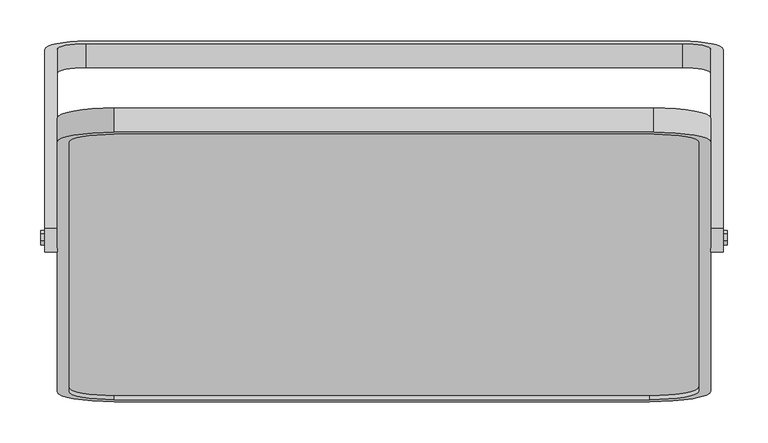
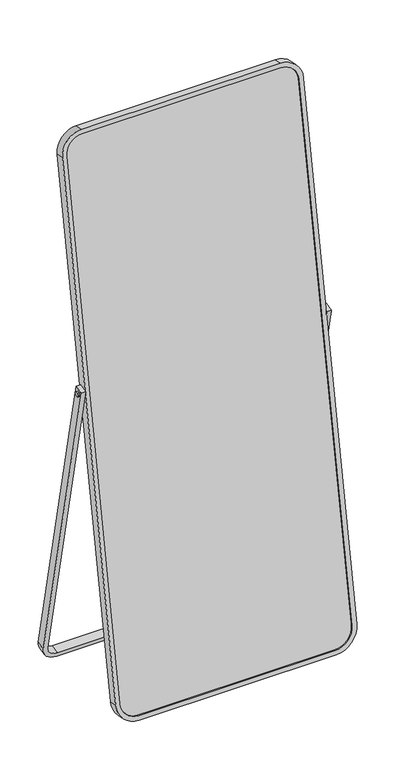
"""IFC4 building model written with IfcOpenShell, lengths in millimetres: furniture geometry, Зеркало напольное_world_of_REVIT : Зеркало напольное_world_of_REVIT."""

from ifc_helpers import new_model, si_unit, point, frame, frame_2d, origin, place, context, project, spatial, polyline, circle_curve, trimmed, segment, composite_curve, outline, extrude, source, transform, mapped, element, save


def furniture_b7f7df5d(model_context):
    return source(origin(), model_context, "Body", "SweptSolid", [
        extrude(outline(polyline([(-74.9723602, 1049.4779193), (-79.3706788, 1057.0960306), (-74.9723602, 1064.7141418), (-66.1757231, 1064.7141418), (-61.7774045, 1057.0960306), (-66.1757231, 1049.4779193), (-74.9723602, 1049.4779193)])), frame((-420.0, 0.0, 0.0), z_axis=(1.0, 0.0, 0.0), x_axis=(0.0, 1.0, 0.0)), (0.0, 0.0, 1.0), 25.0),
        extrude(outline(polyline([(-74.9723602, 1049.6624567), (-79.3706788, 1057.2805679), (-74.9723602, 1064.8986792), (-66.1757231, 1064.8986792), (-61.7774045, 1057.2805679), (-66.1757231, 1049.6624567), (-74.9723602, 1049.6624567)])), frame((395.0, 0.0, 0.0), z_axis=(1.0, 0.0, 0.0), x_axis=(0.0, 1.0, 0.0)), (0.0, 0.0, 1.0), 25.0),
        extrude(outline(composite_curve([segment(polyline([(35.0, 35.0), (35.0, 1087.0065675), (50.0, 1087.0065675), (50.0, 35.0)]), True, "CONTINUOUS"), segment(trimmed(circle_curve(frame_2d((0.0, 35.0)), 50.0), [point((50.0, 35.0))], [point((0.0, -15.0))], False, "CARTESIAN"), True, "CONTINUOUS"), segment(polyline([(0.0, -15.0), (-730.0, -15.0)]), True, "CONTINUOUS"), segment(trimmed(circle_curve(frame_2d((-730.0, 35.0)), 50.0), [point((-730.0, -15.0))], [point((-780.0, 35.0))], False, "CARTESIAN"), True, "CONTINUOUS"), segment(polyline([(-780.0, 35.0), (-780.0, 1087.0065675), (-765.0, 1087.0065675), (-765.0, 35.0)]), True, "CONTINUOUS"), segment(trimmed(circle_curve(frame_2d((-730.0, 35.0)), 35.0), [point((-765.0, 35.0))], [point((-730.0, 0.0))], True, "CARTESIAN"), True, "CONTINUOUS"), segment(polyline([(-730.0, 0.0), (0.0, 0.0)]), True, "CONTINUOUS"), segment(trimmed(circle_curve(frame_2d((0.0, 35.0)), 35.0), [point((0.0, 0.0))], [point((35.0, 35.0))], True, "CARTESIAN"), True, "CONTINUOUS")], self_intersect=False)), frame((-365.0, 137.9963402, 6.9867686), z_axis=(0.0, 0.9781476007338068, 0.2079116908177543), x_axis=(-1.0, 0.0, 0.0)), (0.0, 0.0, 1.0), 30.0),
        extrude(outline(composite_curve([segment(polyline([(0.0, 0.0), (660.0, 0.0)]), True, "CONTINUOUS"), segment(trimmed(circle_curve(frame_2d((660.0, -55.0)), 55.0), [point((660.0, 0.0))], [point((715.0, -55.0))], False, "CARTESIAN"), True, "CONTINUOUS"), segment(polyline([(715.0, -55.0), (715.0, -1810.0)]), True, "CONTINUOUS"), segment(trimmed(circle_curve(frame_2d((655.0, -1810.0)), 60.0), [point((715.0, -1810.0))], [point((655.0, -1870.0))], False, "CARTESIAN"), True, "CONTINUOUS"), segment(polyline([(655.0, -1870.0), (0.0, -1870.0)]), True, "CONTINUOUS"), segment(trimmed(circle_curve(frame_2d((0.0, -1815.0)), 55.0), [point((0.0, -1870.0))], [point((-55.0, -1815.0))], False, "CARTESIAN"), True, "CONTINUOUS"), segment(polyline([(-55.0, -1815.0), (-55.0, -55.0)]), True, "CONTINUOUS"), segment(trimmed(circle_curve(frame_2d((0.0, -55.0)), 55.0), [point((-55.0, -55.0))], [point((0.0, 0.0))], False, "CARTESIAN"), True, "CONTINUOUS")], self_intersect=False)), frame((-330.0, 65.7158341, 1860.3376598), z_axis=(0.0, -0.9848077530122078, 0.17364817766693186), x_axis=(1.0, 0.0, 0.0)), (0.0, 0.0, 1.0), 5.0),
        extrude(outline(composite_curve([segment(trimmed(circle_curve(frame_2d((0.0, -70.0)), 70.0), [point((70.0, -70.0))], [point((0.0, -140.0))], False, "CARTESIAN"), True, "CONTINUOUS"), segment(polyline([(0.0, -140.0), (-660.0, -140.0)]), True, "CONTINUOUS"), segment(trimmed(circle_curve(frame_2d((-660.0, -70.0)), 70.0), [point((-660.0, -140.0))], [point((-730.0, -70.0))], False, "CARTESIAN"), True, "CONTINUOUS"), segment(polyline([(-730.0, -70.0), (-730.0, 1685.0000001)]), True, "CONTINUOUS"), segment(trimmed(circle_curve(frame_2d((-655.0, 1685.0000001)), 75.0), [point((-730.0, 1685.0000001))], [point((-655.0, 1760.0))], False, "CARTESIAN"), True, "CONTINUOUS"), segment(polyline([(-655.0, 1760.0), (0.0, 1760.0)]), True, "CONTINUOUS"), segment(trimmed(circle_curve(frame_2d((0.0, 1690.0)), 70.0), [point((0.0, 1760.0))], [point((70.0, 1690.0))], False, "CARTESIAN"), True, "CONTINUOUS"), segment(polyline([(70.0, 1690.0), (70.0, -70.0)]), True, "CONTINUOUS")], self_intersect=False), holes=[composite_curve([segment(trimmed(circle_curve(frame_2d((0.0, 1690.0)), 55.0), [point((55.0, 1690.0))], [point((0.0, 1745.0))], True, "CARTESIAN"), True, "CONTINUOUS"), segment(polyline([(0.0, 1745.0), (-655.0, 1745.0)]), True, "CONTINUOUS"), segment(trimmed(circle_curve(frame_2d((-655.0, 1685.0000001)), 60.0), [point((-655.0, 1745.0))], [point((-715.0, 1685.0000001))], True, "CARTESIAN"), True, "CONTINUOUS"), segment(polyline([(-715.0, 1685.0000001), (-715.0, -70.0)]), True, "CONTINUOUS"), segment(trimmed(circle_curve(frame_2d((-660.0, -70.0)), 55.0), [point((-715.0, -70.0))], [point((-660.0, -125.0))], True, "CARTESIAN"), True, "CONTINUOUS"), segment(polyline([(-660.0, -125.0), (0.0, -125.0)]), True, "CONTINUOUS"), segment(trimmed(circle_curve(frame_2d((0.0, -70.0)), 55.0), [point((0.0, -125.0))], [point((55.0, -70.0))], True, "CARTESIAN"), True, "CONTINUOUS"), segment(polyline([(55.0, -70.0), (55.0, 1690.0)]), True, "CONTINUOUS")], self_intersect=False)]), frame((-330.0, 63.705967, 1733.7637272), z_axis=(0.0, -0.9848077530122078, 0.17364817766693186), x_axis=(-1.0, 0.0, 0.0)), (0.0, 0.0, 1.0), 30.0),
    ])


if __name__ == "__main__":
    model = new_model("IFC4")
    model_context = context("Model", 3, world=origin())
    ifc_project = project(units=[si_unit("LENGTHUNIT", "METRE", prefix="MILLI")], contexts=[model_context])
    site = spatial("IfcSite", under=ifc_project)
    building = spatial("IfcBuilding", under=site)
    placement = place(None, origin())
    furniture_shape = furniture_b7f7df5d(model_context)
    element("IfcFurniture", 1, ObjectType="Зеркало напольное_world_of_REVIT : Зеркало напольное_world_of_REVIT", at=placement, inside=building, context=model_context, shape_type="MappedRepresentation", body=[
        mapped(furniture_shape, transform((0.0, 0.0, 0.0), x_axis=(1.0, 0.0, 0.0), y_axis=(0.0, 1.0, 0.0), z_axis=(0.0, 0.0, 1.0))),
    ])
    save(model, "model.ifc")
